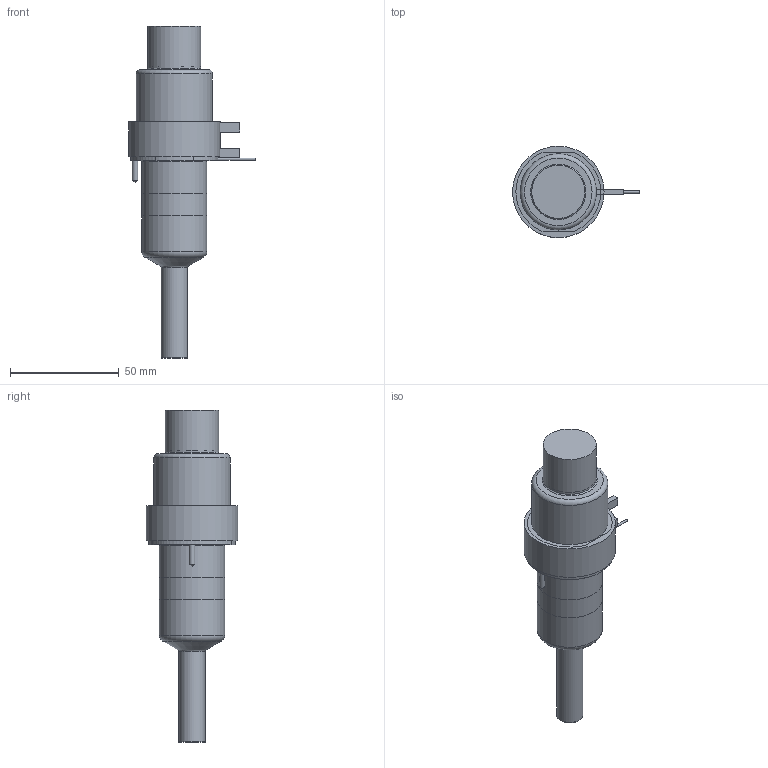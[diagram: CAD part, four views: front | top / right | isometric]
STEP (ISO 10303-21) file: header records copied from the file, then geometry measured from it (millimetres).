
FILE_DESCRIPTION(/* description */ (''),/* implementation_level */ '2;1');
FILE_NAME(/* name */ 'SXTSL-SXISL-SXOSL16055_250C_b',/* time_stamp */ '2008-04-30T09:06:41+12:00',/* author */ (''),/* organization */ (''),/* preprocessor_version */ 'ST-DEVELOPER v9',/* originating_system */ 'UGS - NX 4.0',/* authorisation */ '');
FILE_SCHEMA (('CONFIG_CONTROL_DESIGN'));
Length unit declared in the file: millimetre
Products named in the file (1): SXTSL-SXISL-SXOSL16055_250C_b
Bounding box: 58.25 x 42 x 152.5 mm (x, y, z)
Volume: 168840.5 mm3; surface area: 31122.2 mm2
Topology: 7 solids, 7 shells, 92 faces, 180 edges, 116 vertices
Faces by surface type: plane 45, cylinder 28, torus 9, cone 9, bspline 1
Full cylindrical faces by diameter (mm): 1 x4, 2.5 x2, 7 x1, 11.61 x1, 12.01 x2, 14.8 x1, 24 x1, 24.4 x1, 25.4 x1, 30 x2, 31.8 x1, 35 x1, 40 x1, 42 x1
Entity records: 2250 total; most frequent: CARTESIAN_POINT 438, DIRECTION 382, ORIENTED_EDGE 268, AXIS2_PLACEMENT_3D 166, EDGE_LOOP 142, EDGE_CURVE 134, VERTEX_POINT 107, ADVANCED_FACE 92
